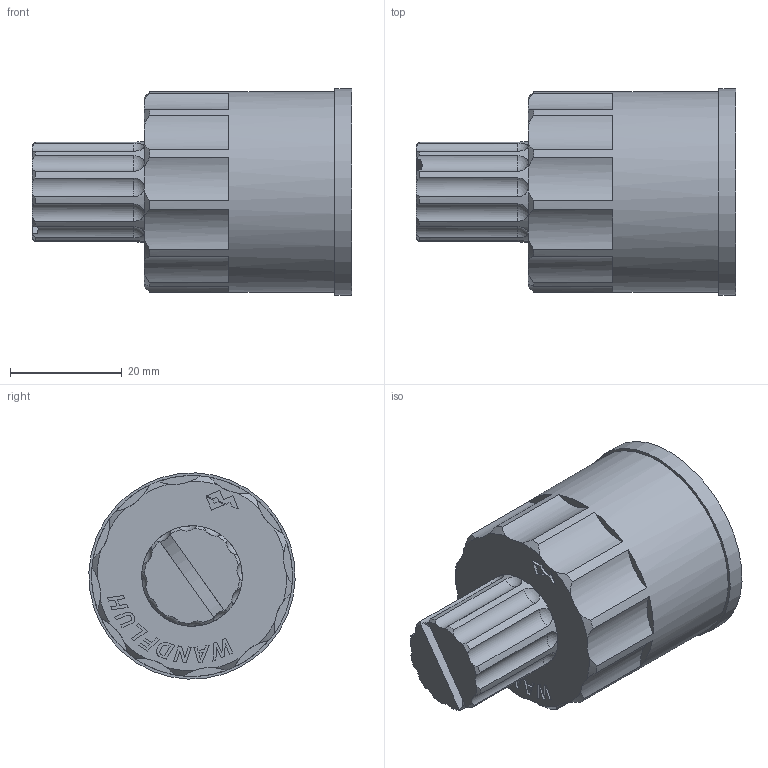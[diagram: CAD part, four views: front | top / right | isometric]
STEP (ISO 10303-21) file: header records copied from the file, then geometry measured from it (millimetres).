
FILE_DESCRIPTION (( 'STEP AP214' ), '1' );
FILE_NAME ('HS1.STEP', '2018-03-09T09:01:20', ( '' ), ( '' ), 'SwSTEP 2.0', 'SolidWorks 2016', '' );
FILE_SCHEMA (( 'AUTOMOTIVE_DESIGN' ));
Length unit declared in the file: millimetre
Products named in the file (1): HS1
Bounding box: 57.2 x 36.97 x 36.97 mm (x, y, z)
Volume: 28717.7 mm3; surface area: 11656.4 mm2
Topology: 3 solids, 3 shells, 222 faces, 605 edges, 400 vertices
Faces by surface type: plane 128, cylinder 34, cone 28, bspline 16, sphere 14, torus 2
Full cylindrical faces by diameter (mm): 4 x2, 18 x2, 21.6 x1, 23 x1, 24.5 x1, 36 x1, 37 x1
Entity records: 10460 total; most frequent: CARTESIAN_POINT 2597, ORIENTED_EDGE 1148, DIRECTION 1028, EDGE_CURVE 574, VERTEX_POINT 390, LINE 346, VECTOR 346, AXIS2_PLACEMENT_3D 341
